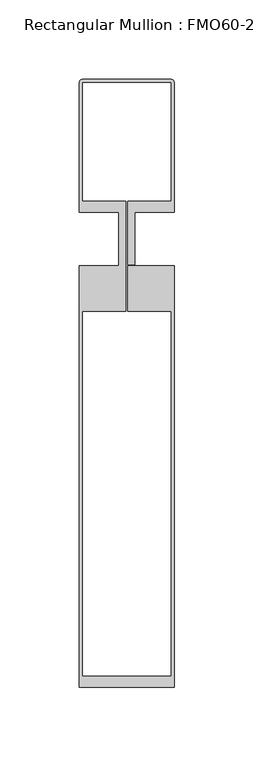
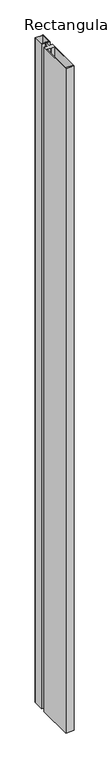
"""IFC4 building model written with IfcOpenShell, lengths in millimetres: member geometry, Rectangular Mullion : FMO60-270...FM60-81."""

from ifc_helpers import new_model, si_unit, point, frame, frame_2d, origin, place, context, project, spatial, polyline, circle_curve, trimmed, segment, composite_curve, outline, extrude, source, transform, mapped, element, save


def rectangular_mullion_fmo60_270_fm60_81_629aa333(model_context):
    return source(origin(), model_context, "Body", "SweptSolid", [
        extrude(outline(composite_curve([segment(polyline([(-27.6, 100.8477977), (27.6, 100.8477977)]), True, "CONTINUOUS"), segment(trimmed(circle_curve(frame_2d((27.6, 98.4477977)), 2.4), [point((27.6, 100.8477977))], [point((30.0, 98.4477977))], False, "CARTESIAN"), True, "CONTINUOUS"), segment(polyline([(30.0, 98.4477977), (30.0, 17.0), (5.0, 17.0), (5.0, -16.2), (0.5, -16.2), (0.5, 23.8476589), (28.0000412, 23.8476589), (28.0000412, 98.8477977), (-28.0000412, 98.8477977), (-28.0000412, 23.8476589), (-0.5, 23.8476589), (-0.5, -45.5034642), (-28.0, -45.5034642), (-28.0, -276.0034417), (28.0, -276.0034417), (28.0, -45.5034642), (0.5, -45.5034642), (0.5, -17.0), (30.0, -17.0), (30.0, -283.009342), (-30.0, -283.009342), (-30.0, -17.0), (-5.0, -17.0), (-5.0, 17.0), (-30.0, 17.0), (-30.0, 98.4477977)]), True, "CONTINUOUS"), segment(trimmed(circle_curve(frame_2d((-27.6, 98.4477977)), 2.4), [point((-30.0, 98.4477977))], [point((-27.6, 100.8477977))], False, "CARTESIAN"), True, "CONTINUOUS")], self_intersect=False)), frame((0.0, 0.0, -5000.0), z_axis=(0.0, 0.0, 1.0), x_axis=(1.0, 0.0, 0.0)), (0.0, 0.0, 1.0), 5000.0),
    ])


if __name__ == "__main__":
    model = new_model("IFC4")
    model_context = context("Model", 3, world=origin())
    ifc_project = project(units=[si_unit("LENGTHUNIT", "METRE", prefix="MILLI")], contexts=[model_context])
    site = spatial("IfcSite", under=ifc_project)
    building = spatial("IfcBuilding", under=site)
    placement = place(None, origin())
    rectangular_mullion_fmo60_270_fm60_81_shape = rectangular_mullion_fmo60_270_fm60_81_629aa333(model_context)
    element("IfcMember", 1, ObjectType="Rectangular Mullion : FMO60-270...FM60-81", at=placement, inside=building, context=model_context, shape_type="MappedRepresentation", body=[
        mapped(rectangular_mullion_fmo60_270_fm60_81_shape, transform((0.0, 0.0, 0.0), x_axis=(1.0, 0.0, 0.0), y_axis=(0.0, 1.0, 0.0), z_axis=(0.0, 0.0, 1.0))),
    ])
    save(model, "model.ifc")
